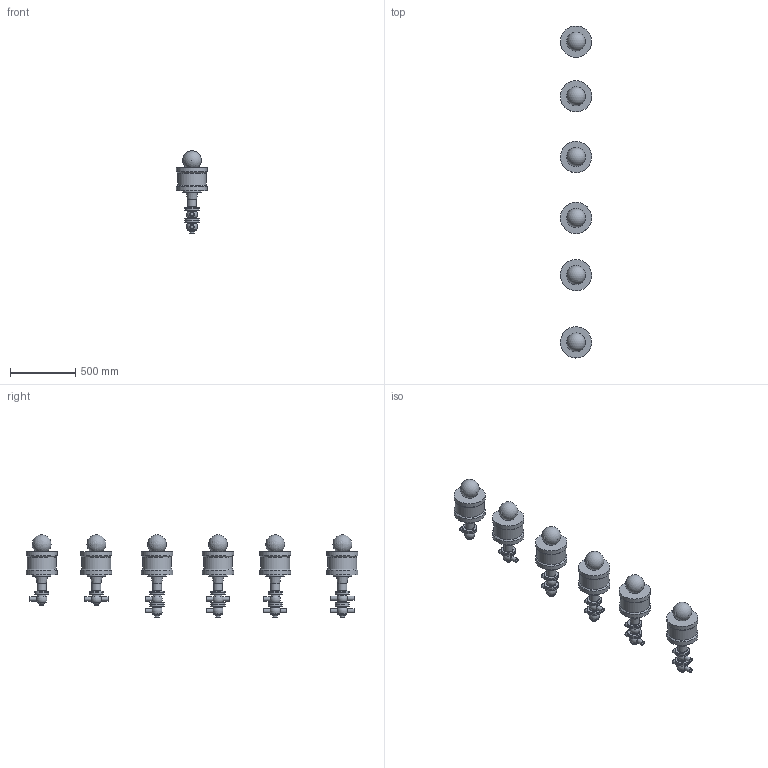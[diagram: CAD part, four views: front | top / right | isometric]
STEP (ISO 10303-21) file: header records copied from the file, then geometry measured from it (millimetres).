
FILE_DESCRIPTION(/* description */ (''),/* implementation_level */ '2;1');
FILE_NAME(/* name */ 'C:\Users\marz-m\Desktop\PDF\BBZQ 3D STEP\BBZQ-DN32-CIL.207.stp',/* time_stamp */ '2018-04-13T14:42:15+02:00',/* author */ ('marz-m'),/* organization */ (''),/* preprocessor_version */ 'ST-DEVELOPER v17',/* originating_system */ 'Autodesk Inventor 2018',/* authorisation */ '');
FILE_SCHEMA (('AUTOMOTIVE_DESIGN { 1 0 10303 214 3 1 1 }'));
Length unit declared in the file: millimetre
Products named in the file (8): BBZQ-DN32-CIL.207; assemblaggio dn40 per cil 207-360; CILINDRO 207; SAGOMA-GIOTTO-; COR-INF-L-BBZQ-DN34X2.5-SALD; COR-INF-T-BBZQ-DN34X2.5-SALD; CORPO-SUP-INF-BBZQ-L-DN34X2.5-SALD; CORPO-SUP-SUP-BBZQ-T-DN34X2.5-SALD
Assembly tree (28 placements, depth 2):
  BBZQ-DN32-CIL.207
    assemblaggio dn40 per cil 207-360  x6
    CILINDRO 207  x6
    SAGOMA-GIOTTO-  x6
    COR-INF-L-BBZQ-DN34X2.5-SALD  x3
    COR-INF-T-BBZQ-DN34X2.5-SALD  x3
    CORPO-SUP-INF-BBZQ-L-DN34X2.5-SALD  x2
    CORPO-SUP-SUP-BBZQ-T-DN34X2.5-SALD  x2
Bounding box: 240 x 2547.41 x 630.47 mm (x, y, z)
Volume: 62882878.3 mm3; surface area: 2811379.9 mm2
Topology: 28 solids, 28 shells, 326 faces, 774 edges, 578 vertices
Faces by surface type: cylinder 124, plane 115, torus 32, sphere 31, cone 24
Full cylindrical faces by diameter (mm): 25.4 x6, 29 x21, 34 x21, 68 x20, 69 x6, 69.8 x6, 109 x20, 141 x6, 221 x6, 240 x12
Entity records: 3405 total; most frequent: DIRECTION 669, CARTESIAN_POINT 523, ORIENTED_EDGE 446, AXIS2_PLACEMENT_3D 313, EDGE_CURVE 223, CIRCLE 180, VERTEX_POINT 167, EDGE_LOOP 124
